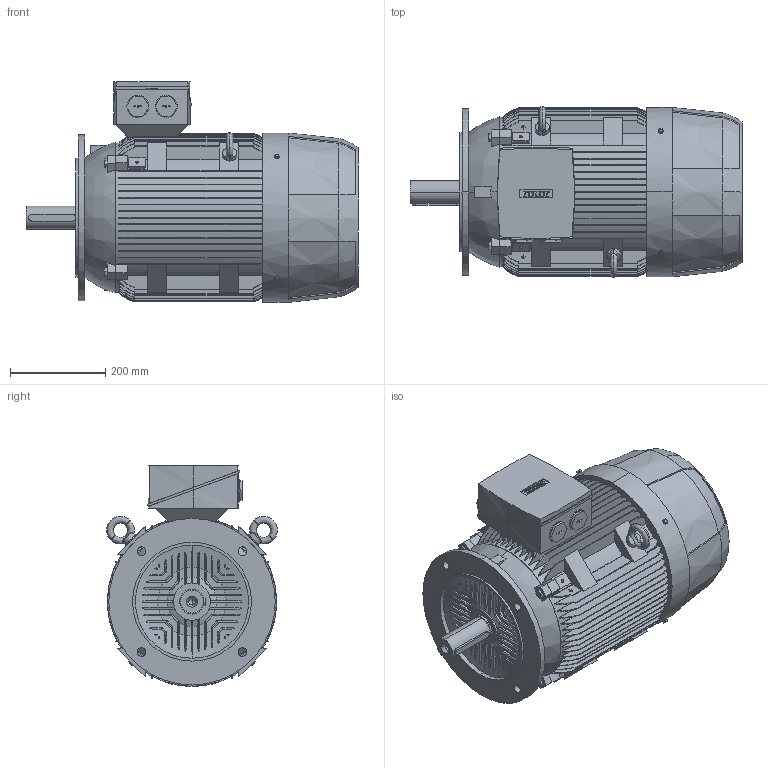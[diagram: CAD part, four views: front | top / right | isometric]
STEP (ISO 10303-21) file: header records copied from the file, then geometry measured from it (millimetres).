
FILE_DESCRIPTION (( 'STEP AP214' ), '1' );
FILE_NAME ('6RN180M02E42 IM3041.STEP', '2017-01-12T11:11:38', ( 'rbc_ict' ), ( 'Microsoft' ), 'SwSTEP 2.0', 'SolidWorks 2015', '' );
FILE_SCHEMA (( 'AUTOMOTIVE_DESIGN' ));
Length unit declared in the file: millimetre
Products named in the file (1): 6RN180M02E42 IM3041
Bounding box: 698 x 358.44 x 464 mm (x, y, z)
Volume: 51917384.6 mm3; surface area: 1827410.4 mm2
Topology: 1 solids, 1 shells, 1291 faces, 3587 edges, 2359 vertices
Faces by surface type: plane 792, cylinder 279, bspline 194, cone 26
Entity records: 62791 total; most frequent: CARTESIAN_POINT 18826, ORIENTED_EDGE 7170, DIRECTION 5362, EDGE_CURVE 3585, VERTEX_POINT 2359, LINE 1872, VECTOR 1872, AXIS2_PLACEMENT_3D 1745
